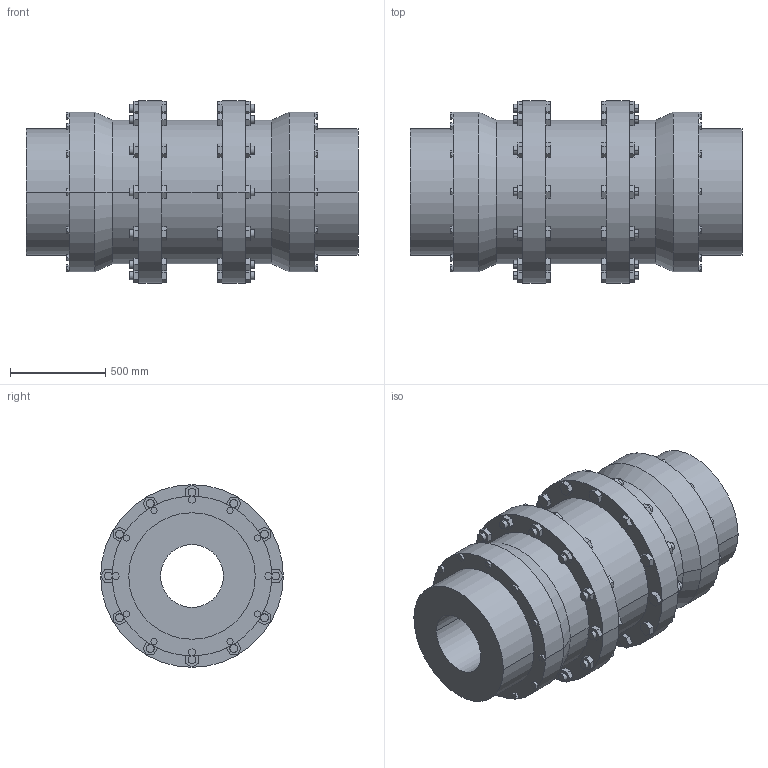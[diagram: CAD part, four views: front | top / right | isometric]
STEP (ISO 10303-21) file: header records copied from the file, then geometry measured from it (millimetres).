
FILE_DESCRIPTION((''),'2;1');
FILE_NAME('A19030200-0_ASM','2018-10-17T',('AB_Roschiwal'),('RENK AG'),'PRO/ENGINEER BY PARAMETRIC TECHNOLOGY CORPORATION, 2015440','PRO/ENGINEER BY PARAMETRIC TECHNOLOGY CORPORATION, 2015440','');
FILE_SCHEMA(('CONFIG_CONTROL_DESIGN'));
Length unit declared in the file: millimetre
Products named in the file (3): SBLK400_GEHAEUSE; SBLK400_NABE; A19030200-0_ASM
Assembly tree (3 placements, depth 2):
  A19030200-0_ASM
    SBLK400_GEHAEUSE
    SBLK400_NABE  x2
Bounding box: 1745 x 960 x 960 mm (x, y, z)
Volume: 455698955.4 mm3; surface area: 11929428.1 mm2
Topology: 3 solids, 3 shells, 632 faces, 1552 edges, 1032 vertices
Faces by surface type: plane 544, cylinder 84, cone 4
Entity records: 18164 total; most frequent: CARTESIAN_POINT 3170, ORIENTED_EDGE 3056, DIRECTION 2932, EDGE_CURVE 1528, VECTOR 1376, LINE 1376, VERTEX_POINT 1016, AXIS2_PLACEMENT_3D 778
